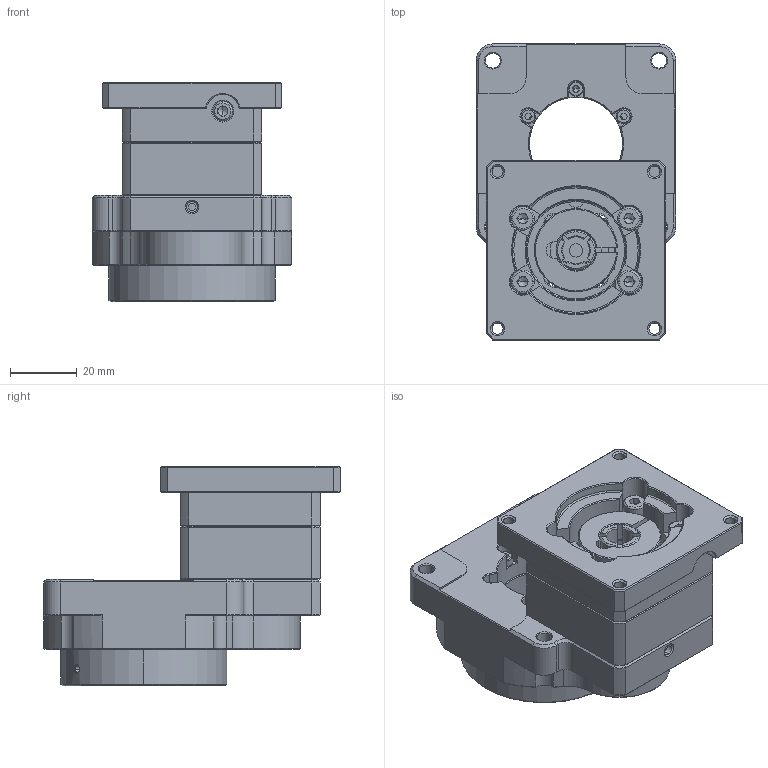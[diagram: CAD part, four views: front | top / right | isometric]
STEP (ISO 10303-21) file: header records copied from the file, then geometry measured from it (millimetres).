
FILE_DESCRIPTION (( 'STEP AP203' ), '1' );
FILE_NAME ('HRG60-5 蚾饜极.STEP', '2021-02-20T08:03:49', ( 'USER' ), ( '' ), 'SwSTEP 2.0', 'SolidWorks 2012', '' );
FILE_SCHEMA (( 'CONFIG_CONTROL_DESIGN' ));
Length unit declared in the file: millimetre
Products named in the file (1): HRG60-5 蚾饜极
Bounding box: 60 x 89 x 66 mm (x, y, z)
Surface area: 38915.3 mm2 (no closed solid volume)
Topology: 0 solids, 35 shells, 680 faces, 2293 edges, 1608 vertices
Faces by surface type: plane 272, cone 189, cylinder 166, torus 29, bspline 24
Entity records: 28935 total; most frequent: CARTESIAN_POINT 9388, DIRECTION 4054, ORIENTED_EDGE 3723, EDGE_CURVE 2277, VERTEX_POINT 1608, AXIS2_PLACEMENT_3D 1461, VECTOR 1132, LINE 1132
